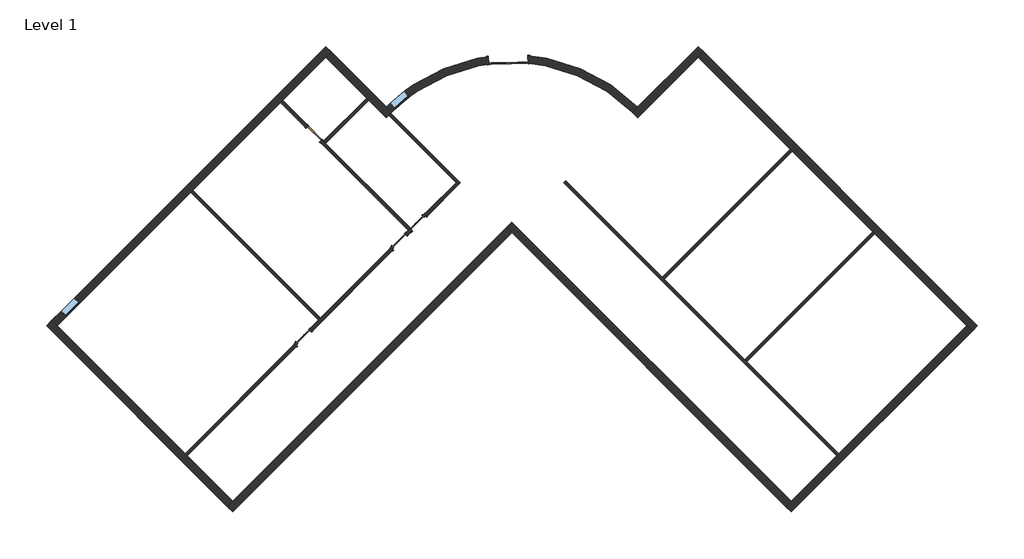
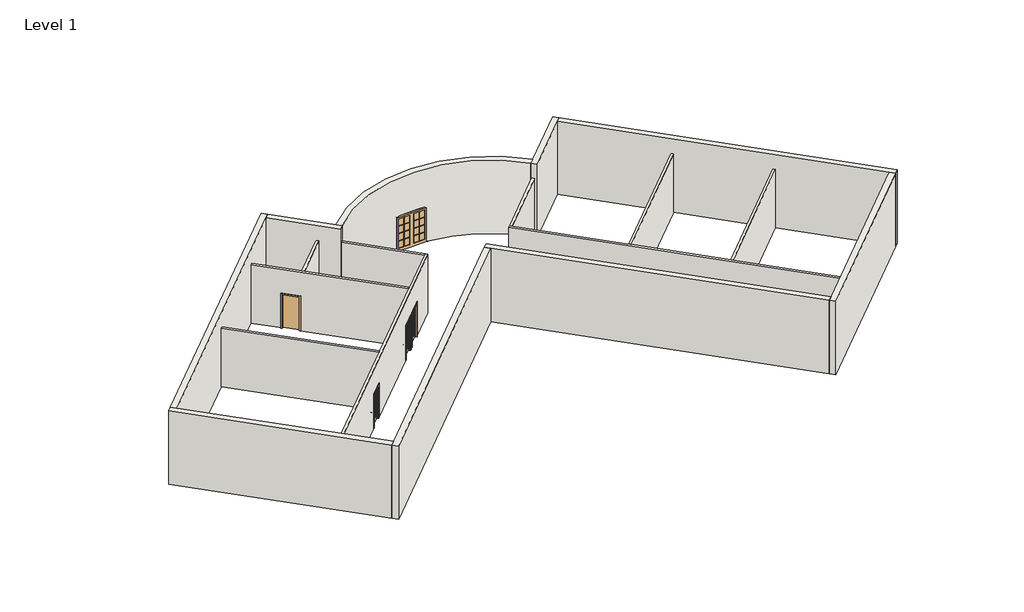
# One storey: 18 walls, 5 doors, 2 windows.
"""IFC4 building model written with IfcOpenShell, lengths in millimetres."""

from ifc_helpers import new_model, si_unit, point, frame, frame_2d, origin, origin_with_axes, place, context, project, spatial, polyline, circle_curve, trimmed, segment, composite_curve, outline, extrude, faceted_brep, transform, mapped, element, save
from ifc_brep_helpers import plane_surface, cylinder_surface, revolved_surface, advanced_brep
from components import m_door_interior_single_full_glass_wood_900_x_2100mm_91e60ec7, m_door_interior_single_full_glass_wood_900_x_2100mm_7a11e5a0, m_door_single_panel_900_x_2100mm_8adb8cd1, m_double_glass_2_1830_x_2134mm_ef281dce, m_fixed_0915_x_1220mm_bde29121

model = new_model("IFC4")

# Units and contexts
model_context = context("Model", 3, world=origin())
ifc_project = project(units=[si_unit("LENGTHUNIT", "METRE", prefix="MILLI")], contexts=[model_context])

# Site, building, storey
site = spatial("IfcSite", under=ifc_project)
building = spatial("IfcBuilding", under=site)
storey = spatial("IfcBuildingStorey", under=building, Name="Level 1", Elevation=0.0)

# Doors
placement = place(None, origin())
m_door_interior_single_full_glass_wood_900_x_2100mm_shape = m_door_interior_single_full_glass_wood_900_x_2100mm_91e60ec7(model_context)
element("IfcDoor", 1, ObjectType="M_Door-Interior-Single-Full Glass-Wood : 900 x 2100mm", at=placement, inside=storey, context=model_context, shape_type="MappedRepresentation", body=[
    mapped(m_door_interior_single_full_glass_wood_900_x_2100mm_shape, transform((-11272.2921092, -2866.4062842, 0.0), x_axis=(0.7071067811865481, 0.7071067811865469, 0.0), y_axis=(-0.7071067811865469, 0.7071067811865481, 0.0), z_axis=(0.0, 0.0, 1.0))),
])
element("IfcDoor", 2, ObjectType="M_Door-Interior-Single-Full Glass-Wood : 900 x 2100mm", at=placement, inside=storey, context=model_context, shape_type="MappedRepresentation", body=[
    mapped(m_door_interior_single_full_glass_wood_900_x_2100mm_shape, transform((-6828.6563195, 1577.2295055, 0.0), x_axis=(0.7071067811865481, 0.7071067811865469, 0.0), y_axis=(-0.7071067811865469, 0.7071067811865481, 0.0), z_axis=(0.0, 0.0, 1.0))),
])
m_door_interior_single_full_glass_wood_900_x_2100mm_2_shape = m_door_interior_single_full_glass_wood_900_x_2100mm_7a11e5a0(model_context)
element("IfcDoor", 3, ObjectType="M_Door-Interior-Single-Full Glass-Wood : 900 x 2100mm", at=placement, inside=storey, context=model_context, shape_type="MappedRepresentation", body=[
    mapped(m_door_interior_single_full_glass_wood_900_x_2100mm_2_shape, transform((-5944.772843, 2461.112982, 0.0), x_axis=(-0.7071067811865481, -0.7071067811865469, 0.0), y_axis=(0.7071067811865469, -0.7071067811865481, 0.0), z_axis=(0.0, 0.0, 1.0))),
])
m_door_single_panel_900_x_2100mm_shape = m_door_single_panel_900_x_2100mm_8adb8cd1(model_context)
element("IfcDoor", 4, ObjectType="M_Door-Single-Panel : 900 x 2100mm", at=placement, inside=storey, context=model_context, shape_type="MappedRepresentation", body=[
    mapped(m_door_single_panel_900_x_2100mm_shape, transform((-10769.2386674, 6570.3402971, 0.0), x_axis=(0.7071067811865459, -0.7071067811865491, 0.0), y_axis=(0.7071067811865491, 0.7071067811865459, 0.0), z_axis=(0.0, 0.0, 1.0))),
])
m_double_glass_2_1830_x_2134mm_shape = m_double_glass_2_1830_x_2134mm_ef281dce(model_context)
element("IfcDoor", 5, ObjectType="M_Double-Glass 2 : 1830 x 2134mm", at=placement, inside=storey, context=model_context, shape_type="MappedRepresentation", body=[
    mapped(m_double_glass_2_1830_x_2134mm_shape, transform((-1775.1372024, 9996.7407669, 0.0), x_axis=(-0.9997639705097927, -0.021725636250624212, 0.0), y_axis=(0.021725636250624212, -0.9997639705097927, 0.0), z_axis=(0.0, 0.0, 1.0))),
])

# Walls
element("IfcWall", 6, ObjectType="Exterior - Brick on Mtl. Stud", at=placement, inside=storey, context=model_context, shape_type="AdvancedBrep", body=[
    advanced_brep(
    [(4212.7441701, 7313.6674352, 4572.0), (4212.7441701, 7313.6674352, 0.0), (7019.8001803, 10120.7234455, 0.0), (7267.2875537, 10368.2108189, 0.0), (7267.2875537, 10368.2108189, 4572.0), (7019.8001803, 10120.7234455, 4572.0), (3970.7557398, 7566.6537518, 0.0), (3970.7557398, 7566.6537518, 4572.0), (4218.2431133, 7814.1411252, 4572.0), (7019.8001803, 10615.6981923, 4572.0), (7019.8001803, 10615.6981923, 0.0), (4218.2431133, 7814.1411252, 0.0), (4109.8638796, 7423.9826013, 0.0), (4013.5506313, 7523.5275434, 0.0)],
    [
        (0, 1),
        (1, 2),
        (2, 3),
        (3, 4),
        (4, 5),
        (5, 0),
        (6, 7),
        (7, 8),
        (8, 9),
        (9, 10),
        (10, 11),
        (11, 6),
        (1, 12, circle_curve(frame((-1601.2456959, 1994.6523161, 0.0), z_axis=(0.0, 0.0, 1.0), x_axis=(1.0, 0.0, 0.0)), 7880.0)),
        (12, 13, circle_curve(frame((-1601.2456959, 1994.6523161, 0.0), z_axis=(0.0, 0.0, 1.0), x_axis=(1.0, 0.0, 0.0)), 7879.9999955)),
        (13, 6, circle_curve(frame((-1601.2456959, 1994.6523161, 0.0), z_axis=(0.0, 0.0, 1.0), x_axis=(1.0, 0.0, 0.0)), 7879.9999413)),
        (10, 3),
        (4, 9),
        (7, 0, circle_curve(frame((-1601.2456959, 1994.6523161, 4572.0), z_axis=(0.0, 0.0, -1.0), x_axis=(1.0, 0.0, 0.0)), 7880.0)),
    ],
    [
        plane_surface(frame((4250.0629184, 7350.9861836, 0.0), z_axis=(0.7071067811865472, -0.7071067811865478, 0.0), x_axis=(0.7071067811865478, 0.7071067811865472, 0.0))),
        plane_surface(frame((4002.575545, 7598.473557, 0.0), z_axis=(-0.7071067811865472, 0.7071067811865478, 0.0), x_axis=(-0.7071067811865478, -0.7071067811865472, 0.0))),
        plane_surface(frame((4340.6424361, 7441.5657013, 0.0), z_axis=(0.0, 0.0, -1.0), x_axis=(-0.7071067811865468, 0.7071067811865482, 0.0))),
        plane_surface(frame((7143.543867, 10244.4671322, 4572.0), z_axis=(0.0, 0.0, 1.0), x_axis=(-0.707106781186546, 0.7071067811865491, 0.0))),
        plane_surface(frame((7019.8001803, 10615.6981923, 0.0), z_axis=(0.7071067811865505, 0.7071067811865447, 0.0), x_axis=(-0.7071067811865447, 0.7071067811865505, 0.0))),
        revolved_surface(polyline([(6278.7543041, 1994.6523161, 0.0), (6278.7543041, 1994.6523161, 4572.0)]), (-1601.2456959, 1994.6523161, 0.0), (0.0, 0.0, -1.0)),
    ],
    [
        (0, [[1, 2, 3, 4, 5, 6]]),
        (1, [[7, 8, 9, 10, 11, 12]]),
        (2, [[-3, -2, 13, 14, 15, -12, -11, 16]]),
        (3, [[-6, -5, 17, -9, -8, 18]]),
        (4, [[-4, -16, -10, -17]]),
        (5, [[-18, -7, -15, -14, -13, -1]]),
    ],
),
])
element("IfcWall", 7, ObjectType="Exterior - Brick on Mtl. Stud", at=placement, inside=storey, context=model_context, shape_type="Brep", body=[
    faceted_brep([(7019.8001803, 10120.7234455, 0.0), (11281.3559738, 5859.167652, 0.0), (11379.290263, 5761.2333628, 0.0), (15096.9041651, 2043.6194607, 0.0), (15194.8384543, 1945.6851715, 0.0), (19456.3942478, -2315.870622, 0.0), (19703.8816212, -2563.3579955, 0.0), (19703.8816212, -2563.3579955, 4572.0), (19456.3942478, -2315.870622, 4572.0), (7019.8001803, 10120.7234455, 4572.0), (7267.2875537, 10368.2108189, 0.0), (7267.2875537, 10368.2108189, 4572.0), (19951.3689947, -2315.870622, 4572.0), (19951.3689947, -2315.870622, 0.0)], [[[0, 1, 2, 3, 4, 5, 6, 7, 8, 9]], [[10, 11, 12, 13]], [[6, 5, 4, 3, 2, 1, 0, 10, 13]], [[9, 8, 7, 12, 11]], [[0, 9, 11, 10]], [[7, 6, 13, 12]]]),
])
element("IfcWall", 8, ObjectType="Exterior - Brick on Mtl. Stud", at=placement, inside=storey, context=model_context, shape_type="Brep", body=[
    faceted_brep([(19456.3942478, -2315.870622, 0.0), (13534.5517321, -8237.7131378, 0.0), (13436.6174429, -8335.647427, 0.0), (11330.3231184, -10441.9417514, 0.0), (11082.835745, -10689.4291248, 0.0), (11082.835745, -10689.4291248, 4572.0), (11330.3231184, -10441.9417514, 4572.0), (19456.3942478, -2315.870622, 4572.0), (19703.8816212, -2563.3579955, 0.0), (19703.8816212, -2563.3579955, 4572.0), (11330.3231184, -10936.9164983, 4572.0), (11330.3231184, -10936.9164983, 0.0)], [[[0, 1, 2, 3, 4, 5, 6, 7]], [[8, 9, 10, 11]], [[4, 3, 2, 1, 0, 8, 11]], [[7, 6, 5, 10, 9]], [[0, 7, 9, 8]], [[5, 4, 11, 10]]]),
])
element("IfcWall", 9, ObjectType="Exterior - Brick on Mtl. Stud", at=placement, inside=storey, context=model_context, shape_type="Brep", body=[
    faceted_brep([(11330.3231184, -10441.9417514, 0.0), (-1601.2456959, 2489.6270629, 0.0), (-1601.2456959, 2489.6270629, 4572.0), (11330.3231184, -10441.9417514, 4572.0), (11082.835745, -10689.4291248, 0.0), (11082.835745, -10689.4291248, 4572.0), (-1601.2456959, 1994.6523161, 4572.0), (-1848.7330693, 2242.1396895, 4572.0), (-1848.7330693, 2242.1396895, 0.0), (-1601.2456959, 1994.6523161, 0.0)], [[[0, 1, 2, 3]], [[4, 5, 6, 7, 8, 9]], [[1, 0, 4, 9, 8]], [[3, 2, 7, 6, 5]], [[0, 3, 5, 4]], [[2, 1, 8, 7]]]),
])
element("IfcWall", 10, ObjectType="Exterior - Brick on Mtl. Stud", at=placement, inside=storey, context=model_context, shape_type="Brep", body=[
    faceted_brep([(-1848.7330693, 2242.1396895, 0.0), (-14532.8145102, -10441.9417514, 0.0), (-14780.3018837, -10689.4291248, 0.0), (-14780.3018837, -10689.4291248, 4572.0), (-14532.8145102, -10441.9417514, 4572.0), (-1848.7330693, 2242.1396895, 4572.0), (-1601.2456959, 1994.6523161, 0.0), (-1601.2456959, 1994.6523161, 4572.0), (-14532.8145102, -10936.9164983, 4572.0), (-14532.8145102, -10936.9164983, 0.0)], [[[0, 1, 2, 3, 4, 5]], [[6, 7, 8, 9]], [[2, 1, 0, 6, 9]], [[5, 4, 3, 8, 7]], [[0, 5, 7, 6]], [[3, 2, 9, 8]]]),
])
element("IfcWall", 11, ObjectType="Exterior - Brick on Mtl. Stud", at=placement, inside=storey, context=model_context, shape_type="Brep", body=[
    faceted_brep([(-14532.8145102, -10441.9417514, 0.0), (-16639.1088347, -8335.647427, 0.0), (-16737.0431239, -8237.7131378, 0.0), (-22658.8856396, -2315.870622, 0.0), (-22906.3730131, -2068.3832486, 0.0), (-22906.3730131, -2068.3832486, 4572.0), (-22658.8856396, -2315.870622, 4572.0), (-14532.8145102, -10441.9417514, 4572.0), (-14780.3018837, -10689.4291248, 0.0), (-14780.3018837, -10689.4291248, 4572.0), (-23153.8603865, -2315.870622, 4572.0), (-23153.8603865, -2315.870622, 0.0)], [[[0, 1, 2, 3, 4, 5, 6, 7]], [[8, 9, 10, 11]], [[4, 3, 2, 1, 0, 8, 11]], [[7, 6, 5, 10, 9]], [[0, 7, 9, 8]], [[5, 4, 11, 10]]]),
])
element("IfcWall", 12, ObjectType="Exterior - Brick on Mtl. Stud", at=placement, inside=storey, context=model_context, shape_type="Brep", body=[
    faceted_brep([(-22658.8856396, -2315.870622, 0.0), (-16473.6458479, 3869.3691697, 0.0), (-16375.7115587, 3967.3034589, 0.0), (-12319.9238385, 8023.0911791, 0.0), (-12221.9895493, 8121.0254683, 0.0), (-10222.2915721, 10120.7234455, 0.0), (-9974.8041987, 10368.2108189, 0.0), (-9974.8041987, 10368.2108189, 4572.0), (-10222.2915721, 10120.7234455, 4572.0), (-22658.8856396, -2315.870622, 4572.0), (-21597.1648077, -1254.1497901, 915.0), (-22244.1675125, -1901.1524949, 915.0), (-22244.1675125, -1901.1524949, 2135.0), (-21597.1648077, -1254.1497901, 2135.0), (-22906.3730131, -2068.3832486, 0.0), (-22906.3730131, -2068.3832486, 4572.0), (-10222.2915721, 10615.6981923, 4572.0), (-10222.2915721, 10615.6981923, 0.0), (-21844.6521811, -1006.6624167, 915.0), (-21844.6521811, -1006.6624167, 2135.0), (-22491.6548859, -1653.6651215, 2135.0), (-22491.6548859, -1653.6651215, 915.0)], [[[0, 1, 2, 3, 4, 5, 6, 7, 8, 9], [10, 11, 12, 13]], [[14, 15, 16, 17], [18, 19, 20, 21]], [[6, 5, 4, 3, 2, 1, 0, 14, 17]], [[9, 8, 7, 16, 15]], [[0, 9, 15, 14]], [[7, 6, 17, 16]], [[19, 18, 10, 13]], [[20, 19, 13, 12]], [[21, 20, 12, 11]], [[18, 21, 11, 10]]]),
])
element("IfcWall", 13, ObjectType="Exterior - Brick on Mtl. Stud", at=placement, inside=storey, context=model_context, shape_type="AdvancedBrep", body=[
    advanced_brep(
    [(-10222.2915721, 10120.7234455, 0.0), (-8331.6648159, 8230.0966893, 0.0), (-8233.7305267, 8132.1624001, 0.0), (-7415.2355619, 7313.6674352, 0.0), (-7415.2355619, 7313.6674352, 4572.0), (-10222.2915721, 10120.7234455, 4572.0), (-9974.8041987, 10368.2108189, 0.0), (-9974.8041987, 10368.2108189, 4572.0), (-7420.7345051, 7814.1411252, 4572.0), (-7173.2471317, 7566.6537518, 4572.0), (-7173.2471317, 7566.6537518, 0.0), (-7420.7345051, 7814.1411252, 0.0), (-7216.0420231, 7523.5275434, 0.0), (-7312.3552714, 7423.9826013, 0.0)],
    [
        (0, 1),
        (1, 2),
        (2, 3),
        (3, 4),
        (4, 5),
        (5, 0),
        (6, 7),
        (7, 8),
        (8, 9),
        (9, 10),
        (10, 11),
        (11, 6),
        (0, 6),
        (10, 12, circle_curve(frame((-1601.2456959, 1994.6523161, 0.0), z_axis=(0.0, 0.0, 1.0), x_axis=(1.0, 0.0, 0.0)), 7880.0)),
        (12, 13, circle_curve(frame((-1601.2456959, 1994.6523161, 0.0), z_axis=(0.0, 0.0, 1.0), x_axis=(1.0, 0.0, 0.0)), 7879.9999413)),
        (13, 3, circle_curve(frame((-1601.2456959, 1994.6523161, 0.0), z_axis=(0.0, 0.0, 1.0), x_axis=(1.0, 0.0, 0.0)), 7879.9999955)),
        (4, 9, circle_curve(frame((-1601.2456959, 1994.6523161, 4572.0), z_axis=(0.0, 0.0, -1.0), x_axis=(1.0, 0.0, 0.0)), 7880.0)),
        (7, 5),
    ],
    [
        plane_surface(frame((-10469.7789456, 10368.2108189, 0.0), z_axis=(-0.7071067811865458, -0.7071067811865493, 0.0), x_axis=(0.7071067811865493, -0.7071067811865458, 0.0))),
        plane_surface(frame((-10222.2915721, 10615.6981923, 0.0), z_axis=(0.7071067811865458, 0.7071067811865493, 0.0), x_axis=(-0.7071067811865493, 0.7071067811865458, 0.0))),
        plane_surface(frame((-10346.0352588, 10244.4671322, 0.0), z_axis=(0.0, 0.0, -1.0000000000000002), x_axis=(0.7071067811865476, 0.7071067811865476, 0.0))),
        plane_surface(frame((-7543.133828, 7441.5657013, 4572.0), z_axis=(0.0, 0.0, 1.0), x_axis=(0.707106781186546, 0.707106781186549, 0.0))),
        plane_surface(frame((-22906.3730131, -2563.3579955, 0.0), z_axis=(-0.7071067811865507, 0.7071067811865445, 0.0), x_axis=(0.7071067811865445, 0.7071067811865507, 0.0))),
        revolved_surface(polyline([(6278.7543041, 1994.6523161, 0.0), (6278.7543041, 1994.6523161, 4572.0)]), (-1601.2456959, 1994.6523161, 0.0), (0.0, 0.0, -1.0)),
    ],
    [
        (0, [[1, 2, 3, 4, 5, 6]]),
        (1, [[7, 8, 9, 10, 11, 12]]),
        (2, [[-3, -2, -1, 13, -12, -11, 14, 15, 16]]),
        (3, [[-5, 17, -9, -8, 18]]),
        (4, [[-6, -18, -7, -13]]),
        (5, [[-16, -15, -14, -10, -17, -4]]),
    ],
),
])
element("IfcWall", 14, ObjectType="Exterior - Brick on Mtl. Stud", at=placement, inside=storey, context=model_context, shape_type="AdvancedBrep", body=[
    advanced_brep(
    [(4218.2431133, 7814.1411252, 4572.0), (-7420.7345051, 7814.1411252, 4572.0), (-7173.2471317, 7566.6537518, 4572.0), (3970.7557398, 7566.6537518, 4572.0), (-7173.2471317, 7566.6537518, 0.0), (-7420.7345051, 7814.1411252, 0.0), (-2693.7232217, 10151.8205046, 0.0), (-2686.0696858, 9799.6223295, 0.0), (4218.2431133, 7814.1411252, 0.0), (3970.7557398, 7566.6537518, 0.0), (-856.5016198, 9839.3802439, 0.0), (-864.1551557, 10191.5784189, 0.0), (-864.1551557, 10191.5784189, 2134.0), (-2693.7232217, 10151.8205046, 2134.0), (-6560.8584073, 8562.3872188, 915.0), (-6560.8584073, 8562.3872188, 2135.0), (-7259.2688911, 7971.2461222, 2135.0), (-7259.2688911, 7971.2461222, 915.0), (-2686.0696858, 9799.6223295, 2134.0), (-856.5016198, 9839.3802439, 2134.0), (-6334.373084, 8294.8035149, 915.0), (-7032.7835678, 7703.6624182, 915.0), (-7032.7835678, 7703.6624182, 2135.0), (-6334.373084, 8294.8035149, 2135.0)],
    [
        (0, 1, circle_curve(frame((-1601.2456959, 1994.6523161, 4572.0), z_axis=(0.0, 0.0, 1.0), x_axis=(1.0, 0.0, 0.0)), 8230.0)),
        (1, 2),
        (2, 3, circle_curve(frame((-1601.2456959, 1994.6523161, 4572.0), z_axis=(0.0, 0.0, -1.0), x_axis=(1.0, 0.0, 0.0)), 7880.0)),
        (3, 0),
        (4, 5),
        (5, 6, circle_curve(frame((-1601.2456959, 1994.6523161, 0.0), z_axis=(0.0, 0.0, -1.0), x_axis=(1.0, 0.0, 0.0)), 8230.0)),
        (6, 7),
        (7, 4, circle_curve(frame((-1601.2456959, 1994.6523161, 0.0), z_axis=(0.0, 0.0, 1.0), x_axis=(1.0, 0.0, 0.0)), 7880.0)),
        (8, 9),
        (9, 10, circle_curve(frame((-1601.2456959, 1994.6523161, 0.0), z_axis=(0.0, 0.0, 1.0), x_axis=(1.0, 0.0, 0.0)), 7880.0)),
        (10, 11),
        (11, 8, circle_curve(frame((-1601.2456959, 1994.6523161, 0.0), z_axis=(0.0, 0.0, -1.0), x_axis=(1.0, 0.0, 0.0)), 8230.0)),
        (0, 8),
        (11, 12),
        (12, 13, circle_curve(frame((-1601.2456959, 1994.6523161, 2134.0), z_axis=(0.0, 0.0, 1.0), x_axis=(1.0, 0.0, 0.0)), 8230.0)),
        (13, 6),
        (5, 1),
        (14, 15),
        (15, 16, circle_curve(frame((-1601.2456959, 1994.6523161, 2135.0), z_axis=(0.0, 0.0, 1.0), x_axis=(1.0, 0.0, 0.0)), 8230.0)),
        (16, 17),
        (17, 14, circle_curve(frame((-1601.2456959, 1994.6523161, 915.0), z_axis=(0.0, 0.0, -1.0), x_axis=(1.0, 0.0, 0.0)), 8230.0)),
        (2, 4),
        (7, 18),
        (18, 19, circle_curve(frame((-1601.2456959, 1994.6523161, 2134.0), z_axis=(0.0, 0.0, -1.0), x_axis=(1.0, 0.0, 0.0)), 7880.0)),
        (19, 10),
        (9, 3),
        (20, 21, circle_curve(frame((-1601.2456959, 1994.6523161, 915.0), z_axis=(0.0, 0.0, 1.0), x_axis=(1.0, 0.0, 0.0)), 7880.0)),
        (21, 22),
        (22, 23, circle_curve(frame((-1601.2456959, 1994.6523161, 2135.0), z_axis=(0.0, 0.0, -1.0), x_axis=(1.0, 0.0, 0.0)), 7880.0)),
        (23, 20),
        (13, 18),
        (12, 19),
        (14, 20),
        (23, 15),
        (22, 16),
        (21, 17),
    ],
    [
        plane_surface(frame((6628.7543041, 1994.6523161, 4572.0), z_axis=(0.0, 0.0, 1.0), x_axis=(0.0, 1.0, 0.0))),
        plane_surface(frame((6628.7543041, 1994.6523161, 0.0), z_axis=(0.0, 0.0, -1.0), x_axis=(0.0, -1.0, 0.0))),
        cylinder_surface(frame((-1601.2456959, 1994.6523161, 0.0), z_axis=(0.0, 0.0, 1.0), x_axis=(1.0, 0.0, 0.0)), 8230.0),
        revolved_surface(polyline([(6278.7543041, 1994.6523161, 0.0), (6278.7543041, 1994.6523161, 4572.0)]), (-1601.2456959, 1994.6523161, 0.0), (0.0, 0.0, -1.0)),
        plane_surface(frame((-10222.2915721, 10615.6981923, 0.0), z_axis=(-0.7071067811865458, -0.7071067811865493, 0.0), x_axis=(-0.7071067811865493, 0.7071067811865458, 0.0))),
        plane_surface(frame((4002.575545, 7598.473557, 0.0), z_axis=(0.7071067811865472, -0.7071067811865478, 0.0), x_axis=(-0.7071067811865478, -0.7071067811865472, 0.0))),
        plane_surface(frame((-2726.8330914, 11675.4607956, 0.0), z_axis=(0.9997639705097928, 0.021725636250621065, 0.0), x_axis=(0.021725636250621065, -0.9997639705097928, 0.0))),
        plane_surface(frame((-2726.8330914, 11675.4607956, 2134.0), z_axis=(0.0, 0.0, -1.0000000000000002), x_axis=(0.021725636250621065, -0.9997639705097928, 0.0))),
        plane_surface(frame((-897.2650253, 11715.21871, 2134.0), z_axis=(-0.9997639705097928, -0.021725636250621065, 0.0), x_axis=(0.021725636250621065, -0.9997639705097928, 0.0))),
        plane_surface(frame((-6560.8584073, 8562.3872188, 915.0), z_axis=(-0.7632901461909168, -0.6460558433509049, 0.0), x_axis=(0.6460558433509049, -0.7632901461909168, 0.0))),
        plane_surface(frame((-6560.8584073, 8562.3872188, 2135.0), z_axis=(0.0, 0.0, -1.0000000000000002), x_axis=(0.6460558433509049, -0.7632901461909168, 0.0))),
        plane_surface(frame((-7259.2688911, 7971.2461222, 2135.0), z_axis=(0.7632901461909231, 0.6460558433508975, 0.0), x_axis=(0.6460558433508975, -0.7632901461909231, 0.0))),
        plane_surface(frame((-7259.2688911, 7971.2461222, 915.0), z_axis=(0.0, 0.0, 1.0), x_axis=(0.6460558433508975, -0.7632901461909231, 0.0))),
    ],
    [
        (0, [[1, 2, 3, 4]]),
        (1, [[5, 6, 7, 8]]),
        (1, [[9, 10, 11, 12]]),
        (2, [[-1, 13, -12, 14, 15, 16, -6, 17], [18, 19, 20, 21]]),
        (3, [[-3, 22, -8, 23, 24, 25, -10, 26], [27, 28, 29, 30]]),
        (4, [[-2, -17, -5, -22]]),
        (5, [[-4, -26, -9, -13]]),
        (6, [[31, -23, -7, -16]]),
        (7, [[-31, -15, 32, -24]]),
        (8, [[-32, -14, -11, -25]]),
        (9, [[-18, 33, -30, 34]]),
        (10, [[-19, -34, -29, 35]]),
        (11, [[-20, -35, -28, 36]]),
        (12, [[-21, -36, -27, -33]]),
    ],
),
])
element("IfcWall", 15, ObjectType="Interior - 138mm Partition (1-hr)", at=placement, inside=storey, context=model_context, shape_type="Brep", body=[
    faceted_brep([(-3997.9841307, 4305.477277, 3658.0), (-16639.1088347, -8335.647427, 3658.0), (-16639.1088347, -8335.647427, 0.0), (-11556.9556216, -3253.4942139, 0.0), (-11556.9556216, -3253.4942139, 2125.0), (-10885.2041795, -2581.7427718, 2125.0), (-10885.2041795, -2581.7427718, 0.0), (-7113.319832, 1190.1415758, 0.0), (-7113.319832, 1190.1415758, 2125.0), (-6441.5683898, 1861.8930179, 2125.0), (-6441.5683898, 1861.8930179, 0.0), (-6229.4363555, 2074.0250523, 0.0), (-6229.4363555, 2074.0250523, 2125.0), (-5557.6849133, 2745.7764944, 2125.0), (-5557.6849133, 2745.7764944, 0.0), (-3997.9841307, 4305.477277, 0.0), (-16737.0431239, -8237.7131378, 3658.0), (-10551.8033322, -2052.473346, 3658.0), (-10453.869043, -1954.5390569, 3658.0), (-6398.0813228, 2101.2486633, 3658.0), (-6300.1470336, 2199.1829525, 3658.0), (-4193.8527091, 4305.477277, 3658.0), (-4095.9184199, 4403.4115662, 3658.0), (-4095.9184199, 4403.4115662, 0.0), (-4193.8527091, 4305.477277, 0.0), (-5655.6192025, 2843.7107836, 0.0), (-5655.6192025, 2843.7107836, 2125.0), (-6327.3706447, 2171.9593415, 2125.0), (-6327.3706447, 2171.9593415, 0.0), (-6398.0813228, 2101.2486633, 0.0), (-6539.502679, 1959.8273071, 0.0), (-6539.502679, 1959.8273071, 2125.0), (-7211.2541211, 1288.075865, 2125.0), (-7211.2541211, 1288.075865, 0.0), (-10453.869043, -1954.5390569, 0.0), (-10551.8033322, -2052.473346, 0.0), (-10983.1384687, -2483.8084826, 0.0), (-10983.1384687, -2483.8084826, 2125.0), (-11654.8899108, -3155.5599247, 2125.0), (-11654.8899108, -3155.5599247, 0.0), (-16737.0431239, -8237.7131378, 0.0)], [[[0, 1, 2, 3, 4, 5, 6, 7, 8, 9, 10, 11, 12, 13, 14, 15]], [[16, 17, 18, 19, 20, 21, 22, 23, 24, 25, 26, 27, 28, 29, 30, 31, 32, 33, 34, 35, 36, 37, 38, 39, 40]], [[2, 40, 39, 3]], [[23, 15, 14, 25, 24]], [[6, 36, 35, 34, 33, 7]], [[10, 30, 29, 28, 11]], [[1, 0, 22, 21, 20, 19, 18, 17, 16]], [[2, 1, 16, 40]], [[0, 15, 23, 22]], [[5, 37, 36, 6]], [[37, 5, 4, 38]], [[38, 4, 3, 39]], [[9, 31, 30, 10]], [[31, 9, 8, 32]], [[32, 8, 7, 33]], [[27, 12, 11, 28]], [[12, 27, 26, 13]], [[13, 26, 25, 14]]]),
])
element("IfcWall", 16, ObjectType="Interior - 138mm Partition (1-hr)", at=placement, inside=storey, context=model_context, shape_type="SweptSolid", body=[
    extrude(outline(composite_curve([segment(polyline([(-7216.038281, 7523.5314273), (-4095.9184199, 4403.4115662), (-4193.8527091, 4305.477277), (-7312.3566207, 7423.9811885)]), True, "CONTINUOUS"), segment(trimmed(circle_curve(frame_2d((-1601.2456959, 1994.6523161)), 7880.0), [point((-7312.3566207, 7423.9811885))], [point((-7216.038281, 7523.5314273))], False, "CARTESIAN"), True, "CONTINUOUS")], self_intersect=False)), origin_with_axes(), (0.0, 0.0, 1.0), 3658.0),
])
element("IfcWall", 17, ObjectType="Interior - 138mm Partition (1-hr)", at=placement, inside=storey, context=model_context, shape_type="Brep", body=[
    faceted_brep([(-6300.1470336, 2199.1829525, 0.0), (-10233.4285039, 6132.4644229, 0.0), (-10331.3627931, 6230.3987121, 0.0), (-10402.0734713, 6301.1093902, 0.0), (-10402.0734713, 6301.1093902, 2100.0), (-11038.4695743, 6937.5054933, 2100.0), (-11038.4695743, 6937.5054933, 0.0), (-12221.9895493, 8121.0254683, 0.0), (-12221.9895493, 8121.0254683, 3658.0), (-10331.3627931, 6230.3987121, 3658.0), (-10233.4285039, 6132.4644229, 3658.0), (-6300.1470336, 2199.1829525, 3658.0), (-10500.0077604, 6203.175101, 2100.0), (-10500.0077604, 6203.175101, 0.0), (-6398.0813228, 2101.2486633, 0.0), (-6398.0813228, 2101.2486633, 3658.0), (-12319.9238385, 8023.0911791, 3658.0), (-12319.9238385, 8023.0911791, 0.0), (-11136.4038635, 6839.5712041, 0.0), (-11136.4038635, 6839.5712041, 2100.0), (-6327.3706447, 2171.9593415, 0.0)], [[[0, 1, 2, 3, 4, 5, 6, 7, 8, 9, 10, 11]], [[12, 13, 14, 15, 16, 17, 18, 19]], [[18, 17, 7, 6]], [[14, 13, 3, 2, 1, 0, 20]], [[11, 10, 9, 8, 16, 15]], [[8, 7, 17, 16]], [[0, 11, 15, 14, 20]], [[4, 3, 13, 12]], [[5, 4, 12, 19]], [[6, 5, 19, 18]]]),
])
element("IfcWall", 18, ObjectType="Interior - 138mm Partition (1-hr)", at=placement, inside=storey, context=model_context, shape_type="SweptSolid", body=[
    extrude(outline(polyline([(-8233.7305267, 8132.1624001), (-10233.4285039, 6132.4644229), (-10331.3627931, 6230.3987121), (-8331.6648159, 8230.0966893), (-8233.7305267, 8132.1624001)])), origin_with_axes(), (0.0, 0.0, 1.0), 3658.0),
])
element("IfcWall", 19, ObjectType="Interior - 138mm Partition (1-hr)", at=placement, inside=storey, context=model_context, shape_type="SweptSolid", body=[
    extrude(outline(polyline([(-16375.7115587, 3967.3034589), (-10453.869043, -1954.5390569), (-10551.8033322, -2052.473346), (-16473.6458479, 3869.3691697), (-16375.7115587, 3967.3034589)])), origin_with_axes(), (0.0, 0.0, 1.0), 3658.0),
])
element("IfcWall", 20, ObjectType="Interior - 138mm Partition (1-hr)", at=placement, inside=storey, context=model_context, shape_type="Brep", body=[
    faceted_brep([(13534.5517321, -8237.7131378, 0.0), (9272.9959386, -3976.1573443, 0.0), (9175.0616494, -3878.2230551, 0.0), (5457.4477473, -160.609153, 0.0), (5359.5134581, -62.6748638, 0.0), (991.3613173, 4305.477277, 0.0), (893.4270281, 4403.4115662, 0.0), (893.4270281, 4403.4115662, 3658.0), (991.3613173, 4305.477277, 3658.0), (5359.5134581, -62.6748638, 3658.0), (5457.4477473, -160.609153, 3658.0), (9175.0616494, -3878.2230551, 3658.0), (9272.9959386, -3976.1573443, 3658.0), (13534.5517321, -8237.7131378, 3658.0), (13436.6174429, -8335.647427, 0.0), (13436.6174429, -8335.647427, 3658.0), (795.4927389, 4305.477277, 3658.0), (795.4927389, 4305.477277, 0.0)], [[[0, 1, 2, 3, 4, 5, 6, 7, 8, 9, 10, 11, 12, 13]], [[14, 15, 16, 17]], [[6, 5, 4, 3, 2, 1, 0, 14, 17]], [[13, 12, 11, 10, 9, 8, 7, 16, 15]], [[0, 13, 15, 14]], [[7, 6, 17, 16]]]),
])
element("IfcWall", 21, ObjectType="Interior - 138mm Partition (1-hr)", at=placement, inside=storey, context=model_context, shape_type="SweptSolid", body=[
    extrude(outline(composite_curve([segment(polyline([(4109.8652288, 7423.9811885), (991.3613173, 4305.477277), (893.4270281, 4403.4115662), (4013.5468892, 7523.5314273)]), True, "CONTINUOUS"), segment(trimmed(circle_curve(frame_2d((-1601.2456959, 1994.6523161)), 7880.0), [point((4013.5468892, 7523.5314273))], [point((4109.8652288, 7423.9811885))], False, "CARTESIAN"), True, "CONTINUOUS")], self_intersect=False)), origin_with_axes(), (0.0, 0.0, 1.0), 3658.0),
])
element("IfcWall", 22, ObjectType="Interior - 138mm Partition (1-hr)", at=placement, inside=storey, context=model_context, shape_type="SweptSolid", body=[
    extrude(outline(polyline([(11379.290263, 5761.2333628), (5457.4477473, -160.609153), (5359.5134581, -62.6748638), (11281.3559738, 5859.167652), (11379.290263, 5761.2333628)])), origin_with_axes(), (0.0, 0.0, 1.0), 3658.0),
])
element("IfcWall", 23, ObjectType="Interior - 138mm Partition (1-hr)", at=placement, inside=storey, context=model_context, shape_type="SweptSolid", body=[
    extrude(outline(polyline([(15194.8384543, 1945.6851715), (9272.9959386, -3976.1573443), (9175.0616494, -3878.2230551), (15096.9041651, 2043.6194607), (15194.8384543, 1945.6851715)])), origin_with_axes(), (0.0, 0.0, 1.0), 3658.0),
])

# Windows
m_fixed_0915_x_1220mm_shape = m_fixed_0915_x_1220mm_bde29121(model_context)
element("IfcWindow", 24, ObjectType="M_Fixed : 0915 x 1220mm", at=placement, inside=storey, context=model_context, shape_type="MappedRepresentation", body=[
    mapped(m_fixed_0915_x_1220mm_shape, transform((-22053.6022349, -1444.7150676, 0.0), x_axis=(-0.7071067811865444, -0.7071067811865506, 0.0), y_axis=(0.7071067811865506, -0.7071067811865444, 0.0), z_axis=(0.0, 0.0, 1.0))),
])
element("IfcWindow", 25, ObjectType="M_Fixed : 0915 x 1220mm", at=placement, inside=storey, context=model_context, shape_type="MappedRepresentation", body=[
    mapped(m_fixed_0915_x_1220mm_shape, transform((-6805.4026025, 8143.1636668, 0.0), x_axis=(-0.7632901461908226, -0.6460558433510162, 0.0), y_axis=(0.6460558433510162, -0.7632901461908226, 0.0), z_axis=(0.0, 0.0, 1.0))),
])

save(model, "model.ifc")
